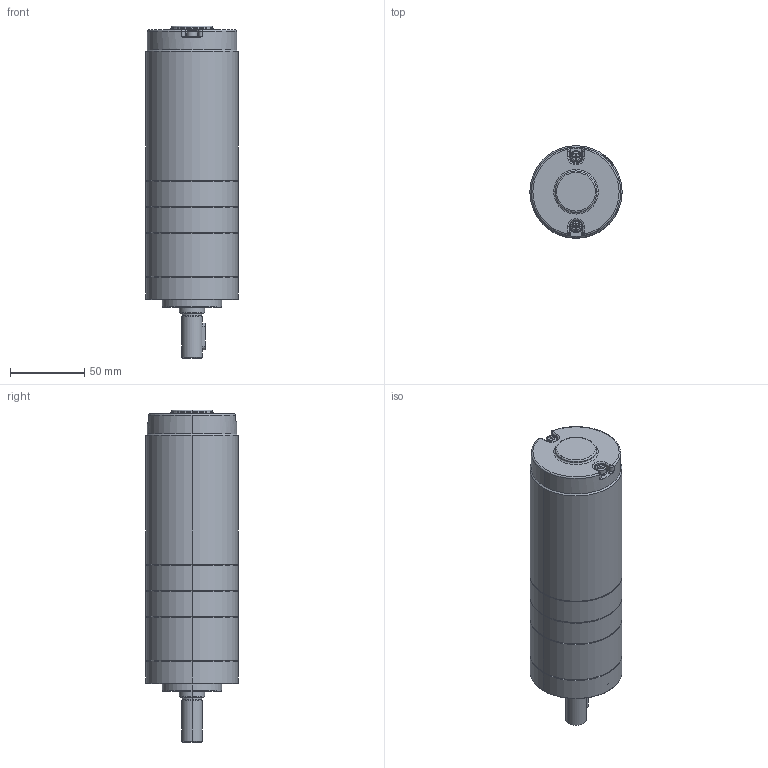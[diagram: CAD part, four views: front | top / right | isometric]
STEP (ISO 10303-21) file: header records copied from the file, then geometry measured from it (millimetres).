
FILE_DESCRIPTION (( 'STEP AP203' ), '1' );
FILE_NAME ('62ZPN衄芃媼撰熬厒60W.STEP', '2021-07-17T08:17:55', ( '' ), ( '' ), 'SwSTEP 2.0', 'SolidWorks 2021', '' );
FILE_SCHEMA (( 'CONFIG_CONTROL_DESIGN' ));
Length unit declared in the file: millimetre
Products named in the file (1): 62ZPN衄芃媼撰熬厒60W
Bounding box: 62 x 62 x 223.2 mm (x, y, z)
Volume: 556365.2 mm3; surface area: 46565.4 mm2
Topology: 1 solids, 1 shells, 277 faces, 645 edges, 385 vertices
Faces by surface type: plane 98, cylinder 97, cone 48, torus 27, bspline 7
Entity records: 8342 total; most frequent: CARTESIAN_POINT 1897, DIRECTION 1416, ORIENTED_EDGE 1266, EDGE_CURVE 633, AXIS2_PLACEMENT_3D 540, VERTEX_POINT 385, VECTOR 336, LINE 336
